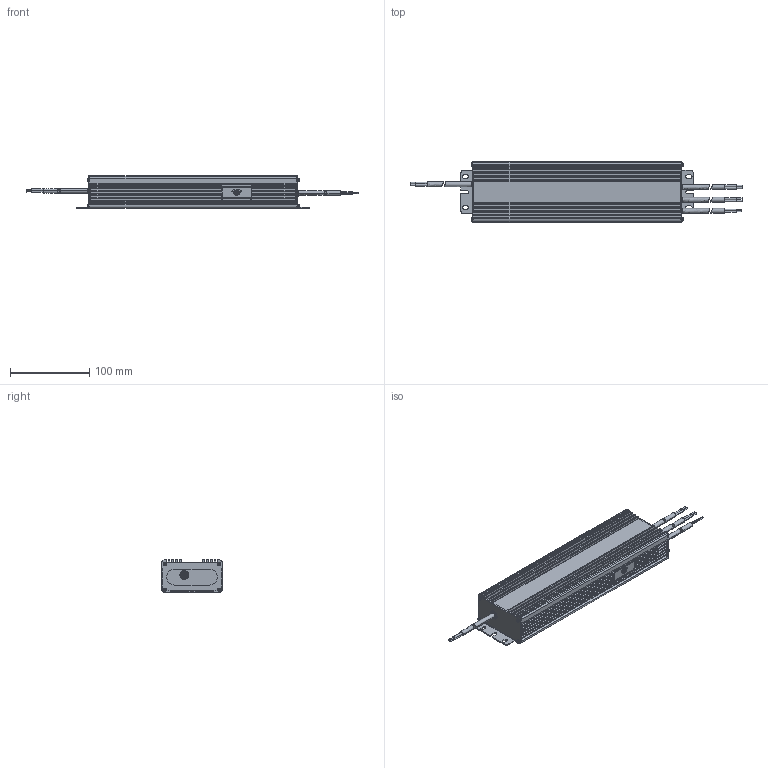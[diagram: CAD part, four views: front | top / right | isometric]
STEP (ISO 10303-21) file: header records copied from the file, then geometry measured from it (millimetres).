
FILE_DESCRIPTION((''),'2;1');
FILE_NAME('15014111Z_DMEC_293X76X41-1','2020-10-14T12:21:25',('Emanuel.Wild'),(''),'CREO PARAMETRIC BY PTC INC, 2019164','CREO PARAMETRIC BY PTC INC, 2019164','');
FILE_SCHEMA(('CONFIG_CONTROL_DESIGN'));
Products named in the file (1): 15014111Z_DMEC_293X76X41-1
Bounding box: 418.41 x 76 x 41.1 mm (x, y, z)
Volume: 198891.5 mm3; surface area: 202681.7 mm2
Topology: 5 solids, 14 shells, 2571 faces, 6665 edges, 4190 vertices
Faces by surface type: revolution 1364, bspline 1169, extrusion 22, cylinder 16
Entity records: 107031 total; most frequent: CARTESIAN_POINT 47441, ORIENTED_EDGE 13246, DIRECTION 9316, EDGE_CURVE 6623, VERTEX_POINT 4190, VECTOR 3444, LINE 3422, EDGE_LOOP 3021
